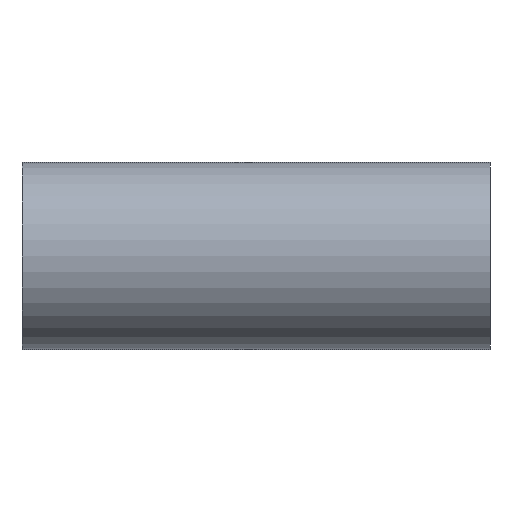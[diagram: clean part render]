
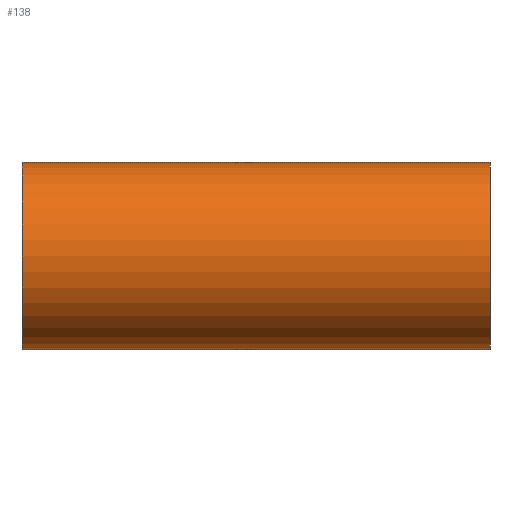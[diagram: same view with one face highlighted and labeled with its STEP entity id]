
A CAD part, front view. The second image highlights one B-rep face of the part: STEP entity #138.
In plain terms, the highlighted cylindrical face has radius 31.75 mm (diameter 63.5 mm), a partial arc.
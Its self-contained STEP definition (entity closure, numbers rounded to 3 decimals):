
#1 = LINE ( 'NONE', #304, #221 ) ;
#39 = CARTESIAN_POINT ( 'NONE',  ( 79.4, 0., -31.75 ) ) ;
#45 = ORIENTED_EDGE ( 'NONE', *, *, #651, .T. ) ;
#58 = CARTESIAN_POINT ( 'NONE',  ( 79.4, 0., 0. ) ) ;
#80 = CIRCLE ( 'NONE', #719, 31.75 ) ;
#86 = ORIENTED_EDGE ( 'NONE', *, *, #435, .T. ) ;
#138 = ADVANCED_FACE ( 'NONE', ( #635 ), #378, .T. ) ;
#205 = VERTEX_POINT ( 'NONE', #39 ) ;
#211 = LINE ( 'NONE', #291, #234 ) ;
#221 = VECTOR ( 'NONE', #690, 1000. ) ;
#234 = VECTOR ( 'NONE', #424, 1000. ) ;
#259 = ORIENTED_EDGE ( 'NONE', *, *, #439, .T. ) ;
#261 = VERTEX_POINT ( 'NONE', #757 ) ;
#291 = CARTESIAN_POINT ( 'NONE',  ( -79.4, 0., -31.75 ) ) ;
#304 = CARTESIAN_POINT ( 'NONE',  ( -79.4, 0., 31.75 ) ) ;
#317 = DIRECTION ( 'NONE',  ( -1., 0., 0. ) ) ;
#318 = DIRECTION ( 'NONE',  ( 0., 0., -1. ) ) ;
#374 = EDGE_LOOP ( 'NONE', ( #558, #45, #259, #86 ) ) ;
#378 = CYLINDRICAL_SURFACE ( 'NONE', #531, 31.75 ) ;
#407 = DIRECTION ( 'NONE',  ( 0., 0., -1. ) ) ;
#424 = DIRECTION ( 'NONE',  ( 1., 0., 0. ) ) ;
#435 = EDGE_CURVE ( 'NONE', #205, #649, #80, .T. ) ;
#439 = EDGE_CURVE ( 'NONE', #479, #205, #211, .T. ) ;
#456 = EDGE_CURVE ( 'NONE', #261, #649, #1, .T. ) ;
#479 = VERTEX_POINT ( 'NONE', #721 ) ;
#492 = CIRCLE ( 'NONE', #516, 31.75 ) ;
#516 = AXIS2_PLACEMENT_3D ( 'NONE', #586, #577, #574 ) ;
#531 = AXIS2_PLACEMENT_3D ( 'NONE', #801, #542, #407 ) ;
#542 = DIRECTION ( 'NONE',  ( 1., 0., 0. ) ) ;
#558 = ORIENTED_EDGE ( 'NONE', *, *, #456, .F. ) ;
#574 = DIRECTION ( 'NONE',  ( 0., 0., -1. ) ) ;
#577 = DIRECTION ( 'NONE',  ( 1., 0., 0. ) ) ;
#586 = CARTESIAN_POINT ( 'NONE',  ( -79.4, 0., 0. ) ) ;
#635 = FACE_OUTER_BOUND ( 'NONE', #374, .T. ) ;
#648 = CARTESIAN_POINT ( 'NONE',  ( 79.4, 0., 31.75 ) ) ;
#649 = VERTEX_POINT ( 'NONE', #648 ) ;
#651 = EDGE_CURVE ( 'NONE', #261, #479, #492, .T. ) ;
#690 = DIRECTION ( 'NONE',  ( 1., 0., 0. ) ) ;
#719 = AXIS2_PLACEMENT_3D ( 'NONE', #58, #317, #318 ) ;
#721 = CARTESIAN_POINT ( 'NONE',  ( -79.4, 0., -31.75 ) ) ;
#757 = CARTESIAN_POINT ( 'NONE',  ( -79.4, 0., 31.75 ) ) ;
#801 = CARTESIAN_POINT ( 'NONE',  ( -79.4, 0., 0. ) ) ;
